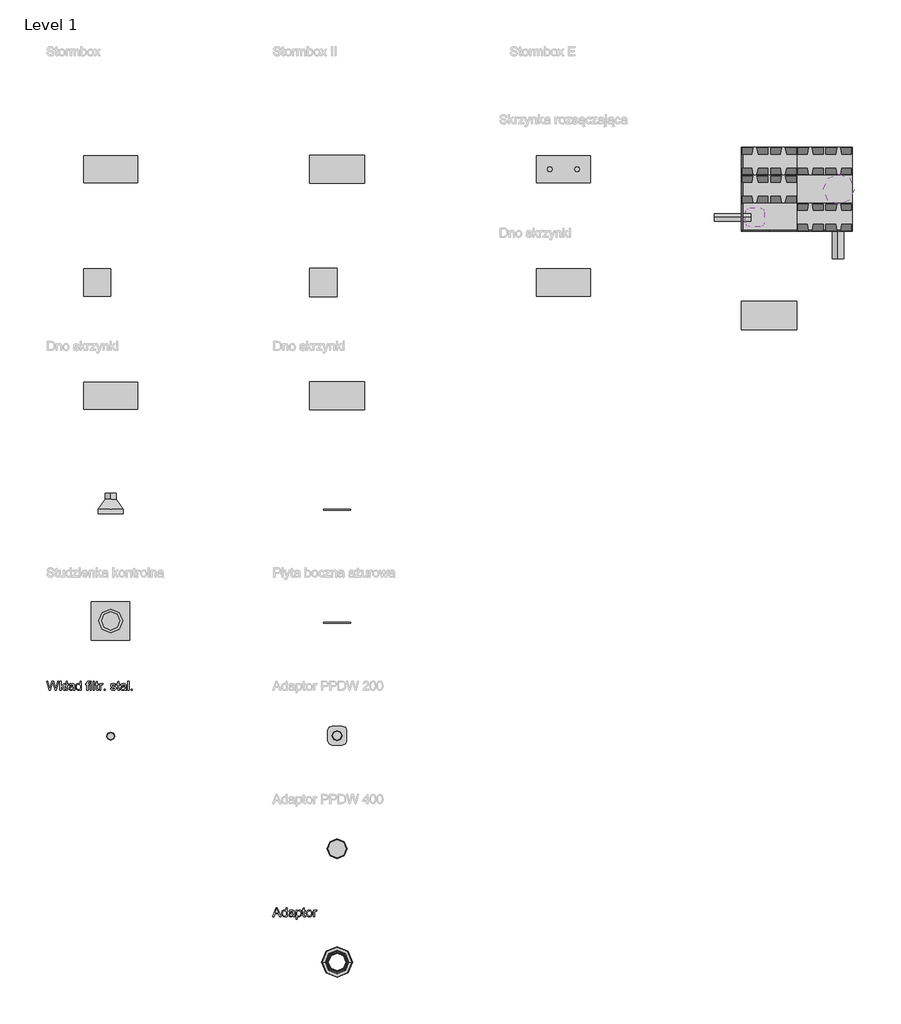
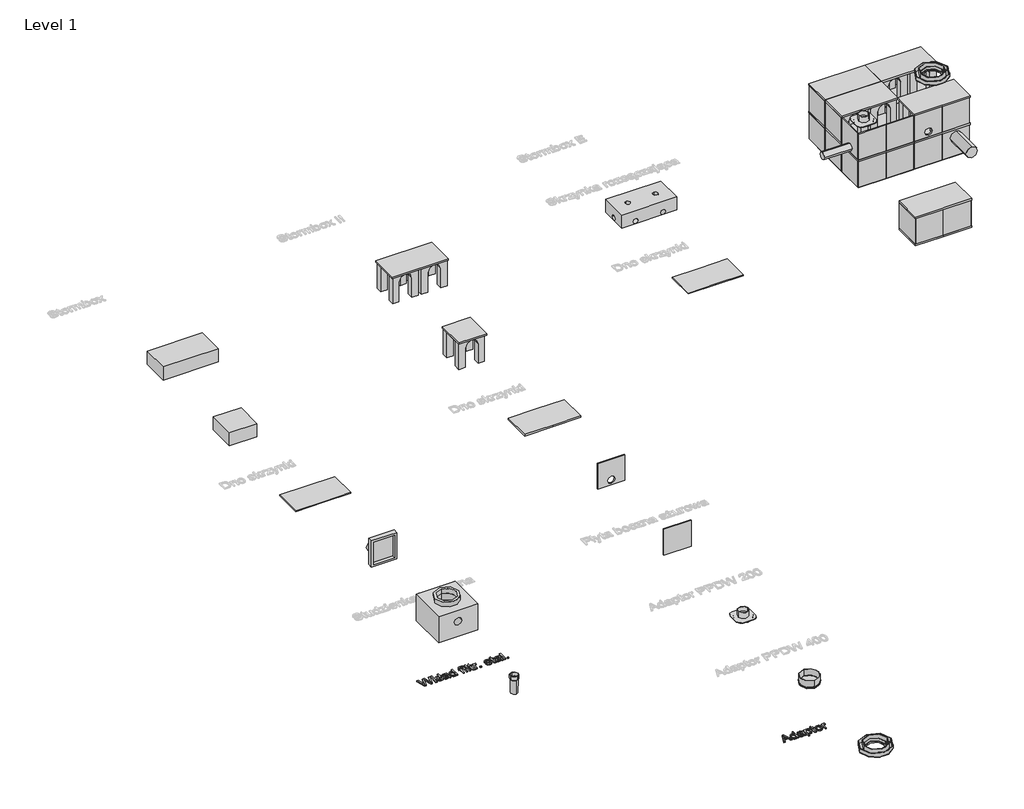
# One storey, part 1 of 5: 51 valves, 5 pipe fittings, 2 pipe segments, 2 proxies.
"""IFC4 building model written with IfcOpenShell, lengths in millimetres."""

from ifc_helpers import new_model, si_unit, point, frame, frame_2d, origin, origin_with_axes, place, context, project, spatial, polyline, circle_curve, trimmed, segment, composite_curve, outline, extrude, transform, mapped, element, save
from components import pipe_fitting_200_fb0a17d5, pipe_fitting_400_25bab9bb, pipe_fitting_400_9a6168bf, valve_804a3bdb, valve_efa6191e, valve_4bfdaffc, valve_0aeaebd4, valve_69fb7b47, valve_1afd6216, valve_ccfea8b2, valve_dc003401, valve_32763297, valve_e3340e43, valve_d310361c, valve_eda81de8, valve_7da77f28, valve_d295aecb, valve_250_92fb9a75

model = new_model("IFC4")

# Units and contexts
model_context = context("Model", 3, world=origin())
ifc_project = project(units=[si_unit("LENGTHUNIT", "METRE", prefix="MILLI")], contexts=[model_context])

# Site, building, storey
site = spatial("IfcSite", under=ifc_project)
building = spatial("IfcBuilding", under=site)
storey = spatial("IfcBuildingStorey", under=building, Name="Level 1", Elevation=0.0)

# Proxies
placement = place(None, origin())
element("IfcBuildingElementProxy", 1, Name="200mm Arial", ObjectType="200mm Arial", at=placement, inside=storey, context=model_context, shape_type="SweptSolid", body=[
    extrude(outline(polyline([(-12354.0896023, -16613.949573), (-12273.8913273, -16413.0369527), (-12252.5051207, -16413.0369527), (-12172.3068457, -16613.949573), (-12198.8434003, -16613.949573), (-12221.8482877, -16551.1643791), (-12304.5972112, -16551.1643791), (-12327.5530477, -16613.949573), (-12354.0896023, -16613.949573)]), holes=[polyline([(-12295.3756358, -16526.0503016), (-12231.0208121, -16526.0503016), (-12249.1206063, -16476.6560124), (-12263.198224, -16438.1510302), (-12275.7062118, -16472.3395303), (-12295.3756358, -16526.0503016)])]), origin_with_axes(), (0.0, 0.0, 1.0), 20.0),
    extrude(outline(polyline([(-12057.5767142, -16613.949573), (-12057.5767142, -16590.2579725), (-12065.0907039, -16601.9964738), (-12074.1927176, -16610.3811176), (-12084.8827552, -16615.4119039), (-12097.1608168, -16617.0888326), (-12113.3966756, -16614.6608115), (-12128.2591082, -16607.376748), (-12140.8406724, -16595.7455456), (-12150.233926, -16580.2761077), (-12156.0832497, -16561.5938337), (-12158.0330243, -16540.324123), (-12156.2365339, -16519.3180611), (-12150.8470627, -16500.3476128), (-12141.870742, -16484.4918989), (-12129.3137032, -16472.8300396), (-12114.1263082, -16465.6563407), (-12097.2589187, -16463.2651077), (-12084.9716601, -16464.975759), (-12074.1068785, -16470.1077128), (-12057.5767142, -16487.8886759), (-12057.5767142, -16413.0369527), (-12032.4626366, -16413.0369527), (-12032.4626366, -16613.949573), (-12057.5767142, -16613.949573)]), holes=[polyline([(-12132.9189468, -16540.2260211), (-12130.0862554, -16562.9427343), (-12121.5881813, -16579.0988853), (-12109.239609, -16588.7557877), (-12094.855423, -16591.9747551), (-12080.4773684, -16588.9029404), (-12068.4414957, -16579.6874965), (-12060.2929095, -16564.1567449), (-12057.5767142, -16542.1390075), (-12060.3419605, -16518.0672623), (-12068.6376995, -16501.3776824), (-12080.9801404, -16491.6288096), (-12095.8854926, -16488.3791853), (-12110.4168314, -16491.5000509), (-12122.3239453, -16500.8626476), (-12130.2701964, -16516.9452222), (-12132.9189468, -16540.2260211)])]), origin_with_axes(), (0.0, 0.0, 1.0), 20.0),
    extrude(outline(polyline([(-11900.6137295, -16595.1140148), (-11924.9675176, -16612.1346884), (-11951.8719542, -16617.0888326), (-11972.859622, -16614.1089885), (-11988.3413227, -16605.169456), (-11997.8878604, -16591.5946104), (-12001.0700397, -16574.7088268), (-11996.2630483, -16554.8431991), (-11983.6324331, -16540.4222249), (-11966.0476738, -16532.1816682), (-11944.3181106, -16528.4047463), (-11900.7608823, -16519.7717822), (-11900.6137295, -16514.1799759), (-11902.3427749, -16502.9718377), (-11907.5299111, -16495.6387233), (-11919.1304566, -16490.1940698), (-11935.292739, -16488.3791853), (-11950.2532734, -16489.5870645), (-11960.7011221, -16493.2107021), (-11967.8257701, -16499.9122858), (-11972.8167025, -16510.3540031), (-11997.93078, -16507.2147434), (-11987.0659984, -16482.6892771), (-11977.8076349, -16474.4364576), (-11965.1892824, -16468.3173538), (-11932.0553774, -16463.2651077), (-11901.6192737, -16467.7287426), (-11884.4269218, -16478.9368807), (-11876.7259253, -16495.9820798), (-11875.499652, -16517.9568977), (-11875.499652, -16549.2023418), (-11874.2243278, -16592.8331464), (-11869.2211326, -16613.949573), (-11894.3352102, -16613.949573), (-11900.6137295, -16595.1140148)]), holes=[polyline([(-11900.6137295, -16544.8858597), (-11941.1297999, -16552.5868562), (-11962.7367358, -16556.6580836), (-11972.5223969, -16563.2799595), (-11975.9559622, -16572.9429932), (-11974.0858953, -16580.4109977), (-11968.4756949, -16586.5301016), (-11959.2479882, -16590.6135917), (-11946.5254025, -16591.9747551), (-11933.0363961, -16590.4725703), (-11921.1170194, -16585.9660159), (-11904.7340079, -16571.4224143), (-11900.7608823, -16551.998245), (-11900.6137295, -16544.8858597)])]), origin_with_axes(), (0.0, 0.0, 1.0), 20.0),
    extrude(outline(polyline([(-11840.9677954, -16670.4562474), (-11840.9677954, -16466.4043674), (-11815.8537179, -16466.4043674), (-11815.8537179, -16491.0279356), (-11798.4896877, -16470.2058147), (-11787.7965844, -16465.0002845), (-11775.0433419, -16463.2651077), (-11758.0594564, -16465.6931289), (-11743.2092865, -16472.9771924), (-11731.1182316, -16484.6758398), (-11722.4116911, -16500.3476128), (-11717.1509785, -16518.8520772), (-11715.3974077, -16539.0487987), (-11717.3778391, -16560.5269759), (-11723.3191333, -16579.7365474), (-11733.031218, -16595.702626), (-11746.3240208, -16607.4503244), (-11761.8057214, -16614.6792056), (-11778.0844997, -16617.0888326), (-11789.629863, -16615.4762832), (-11799.9366902, -16610.638635), (-11815.8537179, -16594.3291999), (-11815.8537179, -16670.4562474), (-11840.9677954, -16670.4562474)]), holes=[polyline([(-11815.8537179, -16541.3541926), (-11813.1375225, -16563.8685707), (-11804.9889363, -16579.6139201), (-11792.9653264, -16588.8845463), (-11778.6240599, -16591.9747551), (-11764.0498016, -16588.7741818), (-11751.7196234, -16579.1724617), (-11743.3135198, -16562.8507638), (-11740.5114852, -16539.4902571), (-11743.2460747, -16517.0985064), (-11751.4498432, -16501.1324278), (-11763.455059, -16491.5674959), (-11777.5939904, -16488.3791853), (-11791.788104, -16491.769831), (-11804.2531723, -16501.9417682), (-11812.9535815, -16518.5761657), (-11815.8537179, -16541.3541926)])]), origin_with_axes(), (0.0, 0.0, 1.0), 20.0),
    extrude(outline(polyline([(-11633.7766557, -16593.0048247), (-11630.637396, -16614.6853369), (-11649.4239032, -16617.0888326), (-11670.4667534, -16612.9195034), (-11680.963653, -16601.9811454), (-11684.0048108, -16573.4825535), (-11684.0048108, -16491.518445), (-11702.8403689, -16491.518445), (-11702.8403689, -16466.4043674), (-11684.0048108, -16466.4043674), (-11684.0048108, -16430.5481356), (-11658.8907332, -16415.7838049), (-11658.8907332, -16466.4043674), (-11633.7766557, -16466.4043674), (-11633.7766557, -16491.518445), (-11658.8907332, -16491.518445), (-11658.8907332, -16572.7467895), (-11657.5663581, -16585.6962357), (-11653.2744015, -16590.2824979), (-11644.7150137, -16591.9747551), (-11633.7766557, -16593.0048247)])), origin_with_axes(), (0.0, 0.0, 1.0), 20.0),
    extrude(outline(polyline([(-11614.9410976, -16540.1769702), (-11609.5087068, -16504.6027813), (-11602.7182183, -16490.7796153), (-11593.2115344, -16479.5990683), (-11573.0761265, -16467.3485979), (-11548.9675931, -16463.2651077), (-11522.5843227, -16468.237646), (-11501.5108157, -16483.1552609), (-11487.6968468, -16506.8407301), (-11483.0921905, -16538.116831), (-11485.1278042, -16563.4884259), (-11491.2346453, -16582.8022307), (-11501.2349042, -16597.2661245), (-11514.9507713, -16608.0879865), (-11531.2418123, -16614.8386211), (-11548.9675931, -16617.0888326), (-11575.6696946, -16612.1346884), (-11596.7186761, -16597.2722558), (-11610.3854922, -16573.090146), (-11614.9410976, -16540.1769702)]), holes=[polyline([(-11589.82702, -16540.1279193), (-11586.9207523, -16562.8568952), (-11578.201949, -16579.0498343), (-11565.0808245, -16588.7435249), (-11548.9675931, -16591.9747551), (-11532.9279381, -16588.7251308), (-11519.8313391, -16578.9762579), (-11511.1125358, -16562.568721), (-11508.206268, -16539.3431043), (-11511.1309299, -16517.276316), (-11519.9049155, -16501.304106), (-11533.0199086, -16491.6104155), (-11548.9675931, -16488.3791853), (-11565.0808245, -16491.5981527), (-11578.201949, -16501.2550551), (-11586.9207523, -16517.4112061), (-11589.82702, -16540.1279193)])]), origin_with_axes(), (0.0, 0.0, 1.0), 20.0),
    extrude(outline(polyline([(-11454.8388533, -16613.949573), (-11454.8388533, -16466.4043674), (-11432.8640354, -16466.4043674), (-11432.8640354, -16488.2320325), (-11417.2658388, -16468.1211501), (-11401.5695404, -16463.2651077), (-11389.0615525, -16465.2026196), (-11376.3573609, -16471.0151551), (-11384.7450704, -16493.5295332), (-11402.4034062, -16488.3791853), (-11416.6036512, -16493.3333295), (-11425.6535483, -16507.0675906), (-11429.7247757, -16536.4000484), (-11429.7247757, -16613.949573), (-11454.8388533, -16613.949573)])), origin_with_axes(), (0.0, 0.0, 1.0), 20.0),
])
element("IfcBuildingElementProxy", 2, Name="200mm Arial", ObjectType="200mm Arial", at=placement, inside=storey, context=model_context, shape_type="SweptSolid", body=[
    extrude(outline(polyline([(-17294.7379737, -11613.949573), (-17349.5278655, -11413.0369527), (-17323.6289731, -11413.0369527), (-17291.8439687, -11545.0820635), (-17282.0337821, -11585.8433885), (-17271.5368825, -11549.790953), (-17231.7075252, -11413.0369527), (-17194.3797654, -11413.0369527), (-17165.4397151, -11512.1688876), (-17143.9063557, -11585.8433885), (-17134.3904747, -11546.2592858), (-17102.3111648, -11413.0369527), (-17076.4122723, -11413.0369527), (-17131.2512151, -11613.949573), (-17158.0820752, -11613.949573), (-17206.2500911, -11458.9486257), (-17212.9700689, -11437.3171643), (-17220.5239125, -11463.3632096), (-17264.4244973, -11613.949573), (-17294.7379737, -11613.949573)])), origin_with_axes(), (0.0, 0.0, 1.0), 20.0),
    extrude(outline(polyline([(-17054.4374545, -11613.949573), (-17054.4374545, -11413.0369527), (-17029.3233769, -11413.0369527), (-17029.3233769, -11520.9980555), (-16973.0129062, -11466.4043674), (-16938.2848458, -11466.4043674), (-16995.2820296, -11521.6847686), (-16935.1455862, -11613.949573), (-16964.4780439, -11613.949573), (-17013.2837219, -11539.1469006), (-17029.3233769, -11554.6960463), (-17029.3233769, -11613.949573), (-17054.4374545, -11613.949573)])), origin_with_axes(), (0.0, 0.0, 1.0), 20.0),
    extrude(outline(polyline([(-16913.1707683, -11534.5361129), (-16932.0063265, -11549.5947493), (-16932.0063265, -11521.341412), (-16913.1707683, -11506.2827757), (-16913.1707683, -11413.0369527), (-16888.0566908, -11413.0369527), (-16888.0566908, -11486.1718933), (-16869.2211326, -11471.113257), (-16869.2211326, -11499.3665942), (-16888.0566908, -11514.4252305), (-16888.0566908, -11613.949573), (-16913.1707683, -11613.949573), (-16913.1707683, -11534.5361129)])), origin_with_axes(), (0.0, 0.0, 1.0), 20.0),
    extrude(outline(polyline([(-16756.2077837, -11595.1140148), (-16780.5615718, -11612.1346884), (-16807.4660084, -11617.0888326), (-16828.4536762, -11614.1089885), (-16843.9353768, -11605.169456), (-16853.4819146, -11591.5946104), (-16856.6640939, -11574.7088268), (-16851.8571024, -11554.8431991), (-16839.2264873, -11540.4222249), (-16821.6417279, -11532.1816682), (-16799.9121647, -11528.4047463), (-16756.3549365, -11519.7717822), (-16756.2077837, -11514.1799759), (-16757.9368291, -11502.9718377), (-16763.1239652, -11495.6387233), (-16774.7245108, -11490.1940698), (-16790.8867931, -11488.3791853), (-16805.8473276, -11489.5870645), (-16816.2951762, -11493.2107021), (-16823.4198242, -11499.9122858), (-16828.4107566, -11510.3540031), (-16853.5248342, -11507.2147434), (-16842.6600526, -11482.6892771), (-16833.401689, -11474.4364576), (-16820.7833366, -11468.3173538), (-16787.6494316, -11463.2651077), (-16757.2133278, -11467.7287426), (-16740.0209759, -11478.9368807), (-16732.3199795, -11495.9820798), (-16731.0937062, -11517.9568977), (-16731.0937062, -11549.2023418), (-16729.8183819, -11592.8331464), (-16724.8151868, -11613.949573), (-16749.9292643, -11613.949573), (-16756.2077837, -11595.1140148)]), holes=[polyline([(-16756.2077837, -11544.8858597), (-16796.7238541, -11552.5868562), (-16818.33079, -11556.6580836), (-16828.116451, -11563.2799595), (-16831.5500163, -11572.9429932), (-16829.6799495, -11580.4109977), (-16824.0697491, -11586.5301016), (-16814.8420424, -11590.6135917), (-16802.1194567, -11591.9747551), (-16788.6304502, -11590.4725703), (-16776.7110736, -11585.9660159), (-16760.328062, -11571.4224143), (-16756.3549365, -11551.998245), (-16756.2077837, -11544.8858597)])]), origin_with_axes(), (0.0, 0.0, 1.0), 20.0),
    extrude(outline(polyline([(-16605.5233185, -11613.949573), (-16605.5233185, -11590.2579725), (-16613.0373082, -11601.9964738), (-16622.1393219, -11610.3811176), (-16632.8293596, -11615.4119039), (-16645.1074212, -11617.0888326), (-16661.3432799, -11614.6608115), (-16676.2057125, -11607.376748), (-16688.7872767, -11595.7455456), (-16698.1805303, -11580.2761077), (-16704.0298541, -11561.5938337), (-16705.9796286, -11540.324123), (-16704.1831382, -11519.3180611), (-16698.793667, -11500.3476128), (-16689.8173463, -11484.4918989), (-16677.2603075, -11472.8300396), (-16662.0729125, -11465.6563407), (-16645.205523, -11463.2651077), (-16632.9182644, -11464.975759), (-16622.0534828, -11470.1077128), (-16605.5233185, -11487.8886759), (-16605.5233185, -11413.0369527), (-16580.4092409, -11413.0369527), (-16580.4092409, -11613.949573), (-16605.5233185, -11613.949573)]), holes=[polyline([(-16680.8655511, -11540.2260211), (-16678.0328597, -11562.9427343), (-16669.5347856, -11579.0988853), (-16657.1862133, -11588.7557877), (-16642.8020273, -11591.9747551), (-16628.4239727, -11588.9029404), (-16616.3881001, -11579.6874965), (-16608.2395139, -11564.1567449), (-16605.5233185, -11542.1390075), (-16608.2885648, -11518.0672623), (-16616.5843038, -11501.3776824), (-16628.9267447, -11491.6288096), (-16643.8320969, -11488.3791853), (-16658.3634357, -11491.5000509), (-16670.2705496, -11500.8626476), (-16678.2168007, -11516.9452222), (-16680.8655511, -11540.2260211)])]), origin_with_axes(), (0.0, 0.0, 1.0), 20.0),
    extrude(outline(polyline([(-16457.9781129, -11613.949573), (-16457.9781129, -11491.518445), (-16479.9529308, -11491.518445), (-16479.9529308, -11466.4043674), (-16457.9781129, -11466.4043674), (-16457.9781129, -11451.5419348), (-16455.3293626, -11430.5971866), (-16450.2771165, -11422.2462653), (-16442.4780182, -11415.6366521), (-16431.5641857, -11411.3324327), (-16417.1677369, -11409.897693), (-16394.2609514, -11412.6445452), (-16397.9397713, -11436.1889929), (-16412.4097965, -11435.0117705), (-16428.2287223, -11439.1810998), (-16431.7052071, -11445.1530508), (-16432.8640354, -11454.7302454), (-16432.8640354, -11466.4043674), (-16404.6106982, -11466.4043674), (-16404.6106982, -11491.518445), (-16432.8640354, -11491.518445), (-16432.8640354, -11613.949573), (-16457.9781129, -11613.949573)])), origin_with_axes(), (0.0, 0.0, 1.0), 20.0),
    extrude(outline(polyline([(-16382.6358803, -11438.1510302), (-16382.6358803, -11413.0369527), (-16357.5218028, -11413.0369527), (-16357.5218028, -11438.1510302), (-16382.6358803, -11438.1510302)])), origin_with_axes(), (0.0, 0.0, 1.0), 20.0),
    extrude(outline(polyline([(-16382.6358803, -11613.949573), (-16382.6358803, -11466.4043674), (-16357.5218028, -11466.4043674), (-16357.5218028, -11613.949573), (-16382.6358803, -11613.949573)])), origin_with_axes(), (0.0, 0.0, 1.0), 20.0),
    extrude(outline(polyline([(-16319.8506865, -11613.949573), (-16319.8506865, -11413.0369527), (-16294.736609, -11413.0369527), (-16294.736609, -11613.949573), (-16319.8506865, -11613.949573)])), origin_with_axes(), (0.0, 0.0, 1.0), 20.0),
    extrude(outline(polyline([(-16203.6980779, -11593.0048247), (-16200.5588182, -11614.6853369), (-16219.3453254, -11617.0888326), (-16240.3881755, -11612.9195034), (-16250.8850751, -11601.9811454), (-16253.926233, -11573.4825535), (-16253.926233, -11491.518445), (-16272.7617911, -11491.518445), (-16272.7617911, -11466.4043674), (-16253.926233, -11466.4043674), (-16253.926233, -11430.5481356), (-16228.8121554, -11415.7838049), (-16228.8121554, -11466.4043674), (-16203.6980779, -11466.4043674), (-16203.6980779, -11491.518445), (-16228.8121554, -11491.518445), (-16228.8121554, -11572.7467895), (-16227.4877802, -11585.6962357), (-16223.1958236, -11590.2824979), (-16214.6364359, -11591.9747551), (-16203.6980779, -11593.0048247)])), origin_with_axes(), (0.0, 0.0, 1.0), 20.0),
    extrude(outline(polyline([(-16178.5840003, -11613.949573), (-16178.5840003, -11466.4043674), (-16156.6091825, -11466.4043674), (-16156.6091825, -11488.2320325), (-16141.0109859, -11468.1211501), (-16125.3146874, -11463.2651077), (-16112.8066996, -11465.2026196), (-16100.102508, -11471.0151551), (-16108.4902175, -11493.5295332), (-16126.1485533, -11488.3791853), (-16140.3487983, -11493.3333295), (-16149.3986954, -11507.0675906), (-16153.4699228, -11536.4000484), (-16153.4699228, -11613.949573), (-16178.5840003, -11613.949573)])), origin_with_axes(), (0.0, 0.0, 1.0), 20.0),
    extrude(outline(polyline([(-16078.1276902, -11613.949573), (-16078.1276902, -11588.8354954), (-16053.0136127, -11588.8354954), (-16053.0136127, -11613.949573), (-16078.1276902, -11613.949573)])), origin_with_axes(), (0.0, 0.0, 1.0), 20.0),
    extrude(outline(polyline([(-15936.861004, -11569.9999373), (-15911.7469265, -11566.8606776), (-15907.7860637, -11577.6028318), (-15900.1218555, -11585.500032), (-15888.7052509, -11590.3560743), (-15873.487199, -11591.9747551), (-15858.4530881, -11590.4909644), (-15847.8826121, -11586.0395923), (-15841.6286182, -11579.5893946), (-15839.5439536, -11572.1091274), (-15841.640881, -11565.7079807), (-15847.9316631, -11560.8274129), (-15873.7815046, -11553.6659767), (-15911.5997737, -11541.378718), (-15921.170837, -11535.2044319), (-15928.1054126, -11527.0313202), (-15933.7217444, -11506.773285), (-15929.2090585, -11488.0603542), (-15916.8972744, -11473.7620073), (-15900.9311958, -11466.330791), (-15879.32426, -11463.2651077), (-15848.7655289, -11468.1947265), (-15837.3366616, -11473.9949993), (-15829.3413596, -11481.5365802), (-15820.7083954, -11504.0754837), (-15845.822473, -11507.2147434), (-15848.9923895, -11499.3114119), (-15855.2647775, -11493.3578549), (-15877.3622227, -11488.3791853), (-15891.7831969, -11489.5686704), (-15901.3971797, -11493.1371257), (-15906.805045, -11498.2874737), (-15908.6076668, -11504.2226365), (-15905.6155599, -11511.5312255), (-15896.2468318, -11517.0739809), (-15874.6153705, -11522.4205326), (-15837.7535945, -11534.2418073), (-15820.634819, -11547.632712), (-15815.9811118, -11557.4796867), (-15814.4298761, -11569.460377), (-15816.2508919, -11581.8457375), (-15821.7139396, -11593.495334), (-15830.6105525, -11603.4955929), (-15842.7322642, -11610.9329406), (-15857.3739676, -11615.5498596), (-15873.8305555, -11617.0888326), (-15899.1530995, -11614.1212512), (-15917.6330384, -11605.2185069), (-15929.969348, -11590.4787017), (-15936.861004, -11569.9999373)])), origin_with_axes(), (0.0, 0.0, 1.0), 20.0),
    extrude(outline(polyline([(-15732.8091241, -11593.0048247), (-15729.6698644, -11614.6853369), (-15748.4563716, -11617.0888326), (-15769.4992217, -11612.9195034), (-15779.9961213, -11601.9811454), (-15783.0372791, -11573.4825535), (-15783.0372791, -11491.518445), (-15801.8728373, -11491.518445), (-15801.8728373, -11466.4043674), (-15783.0372791, -11466.4043674), (-15783.0372791, -11430.5481356), (-15757.9232016, -11415.7838049), (-15757.9232016, -11466.4043674), (-15732.8091241, -11466.4043674), (-15732.8091241, -11491.518445), (-15757.9232016, -11491.518445), (-15757.9232016, -11572.7467895), (-15756.5988264, -11585.6962357), (-15752.3068698, -11590.2824979), (-15743.747482, -11591.9747551), (-15732.8091241, -11593.0048247)])), origin_with_axes(), (0.0, 0.0, 1.0), 20.0),
    extrude(outline(polyline([(-15613.5172558, -11595.1140148), (-15637.8710438, -11612.1346884), (-15664.7754804, -11617.0888326), (-15685.7631482, -11614.1089885), (-15701.2448489, -11605.169456), (-15710.7913866, -11591.5946104), (-15713.9735659, -11574.7088268), (-15709.1665745, -11554.8431991), (-15696.5359593, -11540.4222249), (-15678.9512, -11532.1816682), (-15657.2216368, -11528.4047463), (-15613.6644085, -11519.7717822), (-15613.5172558, -11514.1799759), (-15615.2463011, -11502.9718377), (-15620.4334373, -11495.6387233), (-15632.0339828, -11490.1940698), (-15648.1962652, -11488.3791853), (-15663.1567996, -11489.5870645), (-15673.6046483, -11493.2107021), (-15680.7292963, -11499.9122858), (-15685.7202287, -11510.3540031), (-15710.8343062, -11507.2147434), (-15699.9695246, -11482.6892771), (-15690.7111611, -11474.4364576), (-15678.0928086, -11468.3173538), (-15644.9589036, -11463.2651077), (-15614.5227999, -11467.7287426), (-15597.330448, -11478.9368807), (-15589.6294515, -11495.9820798), (-15588.4031782, -11517.9568977), (-15588.4031782, -11549.2023418), (-15587.127854, -11592.8331464), (-15582.1246588, -11613.949573), (-15607.2387364, -11613.949573), (-15613.5172558, -11595.1140148)]), holes=[polyline([(-15613.5172558, -11544.8858597), (-15654.0333262, -11552.5868562), (-15675.640262, -11556.6580836), (-15685.4259231, -11563.2799595), (-15688.8594884, -11572.9429932), (-15686.9894216, -11580.4109977), (-15681.3792211, -11586.5301016), (-15672.1515144, -11590.6135917), (-15659.4289287, -11591.9747551), (-15645.9399223, -11590.4725703), (-15634.0205456, -11585.9660159), (-15617.6375341, -11571.4224143), (-15613.6644085, -11551.998245), (-15613.5172558, -11544.8858597)])]), origin_with_axes(), (0.0, 0.0, 1.0), 20.0),
    extrude(outline(polyline([(-15553.8713216, -11613.949573), (-15553.8713216, -11413.0369527), (-15528.7572441, -11413.0369527), (-15528.7572441, -11613.949573), (-15553.8713216, -11613.949573)])), origin_with_axes(), (0.0, 0.0, 1.0), 20.0),
    extrude(outline(polyline([(-15484.8076084, -11613.949573), (-15484.8076084, -11588.8354954), (-15459.6935308, -11588.8354954), (-15459.6935308, -11613.949573), (-15484.8076084, -11613.949573)])), origin_with_axes(), (0.0, 0.0, 1.0), 20.0),
])

# Pipe fittings
pipe_fitting_200_shape = pipe_fitting_200_fb0a17d5(model_context)
element("IfcPipeFitting", 3, ObjectType="Pipelife - Stormbox II - Adaptor PPDW 200 : 200", at=placement, inside=storey, context=model_context, shape_type="MappedRepresentation", body=[
    mapped(pipe_fitting_200_shape, transform((-10932.6671252, -12613.949573, 0.0), x_axis=(1.0, 0.0, 0.0), y_axis=(0.0, 1.0, 0.0), z_axis=(0.0, 0.0, 1.0))),
])
element("IfcPipeFitting", 4, ObjectType="Pipelife - Stormbox II - Adaptor PPDW 200 : 200", at=placement, inside=storey, context=model_context, shape_type="MappedRepresentation", body=[
    mapped(pipe_fitting_200_shape, transform((-1702.9246802, -1176.7313655, 1264.0), x_axis=(1.0, 0.0, 0.0), y_axis=(0.0, 1.0, 0.0), z_axis=(0.0, 0.0, 1.0))),
])
pipe_fitting_400_shape = pipe_fitting_400_25bab9bb(model_context)
element("IfcPipeFitting", 5, ObjectType="Pipelife - Stormbox II - Adaptor PPDW 400 : 400", at=placement, inside=storey, context=model_context, shape_type="MappedRepresentation", body=[
    mapped(pipe_fitting_400_shape, transform((-10932.6671252, -15113.949573, 0.0), x_axis=(1.0, 0.0, 0.0), y_axis=(0.0, 1.0, 0.0), z_axis=(0.0, 0.0, 1.0))),
])
pipe_fitting_400_2_shape = pipe_fitting_400_9a6168bf(model_context)
element("IfcPipeFitting", 6, ObjectType="Pipelife - Stormbox II - Adaptor : 400", at=placement, inside=storey, context=model_context, shape_type="MappedRepresentation", body=[
    mapped(pipe_fitting_400_2_shape, transform((-10932.6671252, -17613.949573, 0.0), x_axis=(1.0, 0.0, 0.0), y_axis=(0.0, 1.0, 0.0), z_axis=(0.0, 0.0, 1.0))),
])
element("IfcPipeFitting", 7, ObjectType="Pipelife - Stormbox II - Adaptor : 400", at=placement, inside=storey, context=model_context, shape_type="MappedRepresentation", body=[
    mapped(pipe_fitting_400_2_shape, transform((148.0753198, -555.7313655, 1264.0), x_axis=(1.0, 0.0, 0.0), y_axis=(0.0, 1.0, 0.0), z_axis=(0.0, 0.0, 1.0))),
])

# Pipe segments
element("IfcPipeSegment", 8, ObjectType="Default", at=placement, inside=storey, context=model_context, shape_type="SweptSolid", body=[
    extrude(outline(composite_curve([segment(trimmed(circle_curve(frame_2d((430.0, 130.5753198)), 125.0), [point((430.0, 5.5753198))], [point((305.0, 130.5753198))], False, "CARTESIAN"), True, "CONTINUOUS"), segment(trimmed(circle_curve(frame_2d((430.0, 130.5753198)), 125.0), [point((305.0, 130.5753198))], [point((430.0, 255.5753198))], False, "CARTESIAN"), True, "CONTINUOUS"), segment(trimmed(circle_curve(frame_2d((430.0, 130.5753198)), 125.0), [point((430.0, 255.5753198))], [point((555.0, 130.5753198))], False, "CARTESIAN"), True, "CONTINUOUS"), segment(trimmed(circle_curve(frame_2d((430.0, 130.5753198)), 125.0), [point((555.0, 130.5753198))], [point((430.0, 5.5753198))], False, "CARTESIAN"), True, "CONTINUOUS")], self_intersect=False)), frame((0.0, -2087.2313655, 0.0), z_axis=(0.0, 1.0, 0.0), x_axis=(0.0, 0.0, 1.0)), (0.0, 0.0, 1.0), 800.0),
])
element("IfcPipeSegment", 9, ObjectType="Default", at=placement, inside=storey, context=model_context, shape_type="SweptSolid", body=[
    extrude(outline(composite_curve([segment(trimmed(circle_curve(frame_2d((-1176.7313655, 752.0)), 80.0), [point((-1096.7313655, 752.0))], [point((-1176.7313655, 672.0))], False, "CARTESIAN"), True, "CONTINUOUS"), segment(trimmed(circle_curve(frame_2d((-1176.7313655, 752.0)), 80.0), [point((-1176.7313655, 672.0))], [point((-1256.7313655, 752.0))], False, "CARTESIAN"), True, "CONTINUOUS"), segment(trimmed(circle_curve(frame_2d((-1176.7313655, 752.0)), 80.0), [point((-1256.7313655, 752.0))], [point((-1176.7313655, 832.0))], False, "CARTESIAN"), True, "CONTINUOUS"), segment(trimmed(circle_curve(frame_2d((-1176.7313655, 752.0)), 80.0), [point((-1176.7313655, 832.0))], [point((-1096.7313655, 752.0))], False, "CARTESIAN"), True, "CONTINUOUS")], self_intersect=False)), frame((-2599.4246802, 0.0, 0.0), z_axis=(1.0, 0.0, 0.0), x_axis=(0.0, 1.0, 0.0)), (0.0, 0.0, 1.0), 800.0),
])

# Valves
valve_shape = valve_804a3bdb(model_context)
element("IfcValve", 10, ObjectType="Pipelife - Stormbox - Dno skrzynki : Dno skrzynki", at=placement, inside=storey, context=model_context, shape_type="MappedRepresentation", body=[
    mapped(valve_shape, transform((-1388.4246802, -1176.7313655, -19.7), x_axis=(1.0, 0.0, 0.0), y_axis=(0.0, 1.0, 0.0), z_axis=(0.0, 0.0, 1.0))),
])
element("IfcValve", 11, ObjectType="Pipelife - Stormbox - Dno skrzynki : Dno skrzynki", at=placement, inside=storey, context=model_context, shape_type="MappedRepresentation", body=[
    mapped(valve_shape, transform((-1388.4246802, -555.7313655, -19.7), x_axis=(1.0, 0.0, 0.0), y_axis=(0.0, 1.0, 0.0), z_axis=(0.0, 0.0, 1.0))),
])
element("IfcValve", 12, ObjectType="Pipelife - Stormbox - Dno skrzynki : Dno skrzynki", at=placement, inside=storey, context=model_context, shape_type="MappedRepresentation", body=[
    mapped(valve_shape, transform((-1388.4246802, 65.2686345, -19.7), x_axis=(1.0, 0.0, 0.0), y_axis=(0.0, 1.0, 0.0), z_axis=(0.0, 0.0, 1.0))),
])
element("IfcValve", 13, ObjectType="Pipelife - Stormbox - Dno skrzynki : Dno skrzynki", at=placement, inside=storey, context=model_context, shape_type="MappedRepresentation", body=[
    mapped(valve_shape, transform((-166.4246802, -1176.7313655, -19.7), x_axis=(1.0, 0.0, 0.0), y_axis=(0.0, 1.0, 0.0), z_axis=(0.0, 0.0, 1.0))),
])
element("IfcValve", 14, ObjectType="Pipelife - Stormbox - Dno skrzynki : Dno skrzynki", at=placement, inside=storey, context=model_context, shape_type="MappedRepresentation", body=[
    mapped(valve_shape, transform((-166.4246802, -555.7313655, -19.7), x_axis=(1.0, 0.0, 0.0), y_axis=(0.0, 1.0, 0.0), z_axis=(0.0, 0.0, 1.0))),
])
element("IfcValve", 15, ObjectType="Pipelife - Stormbox - Dno skrzynki : Dno skrzynki", at=placement, inside=storey, context=model_context, shape_type="MappedRepresentation", body=[
    mapped(valve_shape, transform((-166.4246802, 65.2686345, -19.7), x_axis=(1.0, 0.0, 0.0), y_axis=(0.0, 1.0, 0.0), z_axis=(0.0, 0.0, 1.0))),
])
element("IfcValve", 16, ObjectType="Pipelife - Stormbox - Dno skrzynki : Dno skrzynki", at=placement, inside=storey, context=model_context, shape_type="MappedRepresentation", body=[
    mapped(valve_shape, transform((-15932.6671252, -5113.949573, 0.0), x_axis=(1.0, 0.0, 0.0), y_axis=(0.0, 1.0, 0.0), z_axis=(0.0, 0.0, 1.0))),
])
valve_2_shape = valve_efa6191e(model_context)
element("IfcValve", 17, ObjectType="Pipelife - Stormbox - Studzienka kontrolna : 160-200-250-315", at=placement, inside=storey, context=model_context, shape_type="MappedRepresentation", body=[
    mapped(valve_2_shape, transform((-15932.6671252, -10084.0282356, 0.0), x_axis=(1.0, 0.0, 0.0), y_axis=(0.0, 1.0, 0.0), z_axis=(0.0, 0.0, 1.0))),
])
valve_3_shape = valve_4bfdaffc(model_context)
element("IfcValve", 18, ObjectType="Pipelife - Stormbox - Wkład filtr. stal. : 160 dł. 300 mm", at=placement, inside=storey, context=model_context, shape_type="MappedRepresentation", body=[
    mapped(valve_3_shape, transform((-15932.6671252, -12626.449573, 0.0), x_axis=(1.0, 0.0, 0.0), y_axis=(0.0, 1.0, 0.0), z_axis=(0.0, 0.0, 1.0))),
])
valve_4_shape = valve_0aeaebd4(model_context)
element("IfcValve", 19, ObjectType="Pipelife - Stormbox II - Dno skrzynki : Dno skrzynki", at=placement, inside=storey, context=model_context, shape_type="MappedRepresentation", body=[
    mapped(valve_4_shape, transform((-10932.6671252, -5113.949573, 0.0), x_axis=(1.0, 0.0, 0.0), y_axis=(0.0, 1.0, 0.0), z_axis=(0.0, 0.0, 1.0))),
])
element("IfcValve", 20, ObjectType="Pipelife - Stormbox II - Dno skrzynki : Dno skrzynki", at=placement, inside=storey, context=model_context, shape_type="MappedRepresentation", body=[
    mapped(valve_4_shape, transform((-1388.4246802, -3341.14986, -36.0), x_axis=(1.0, 0.0, 0.0), y_axis=(0.0, 1.0, 0.0), z_axis=(0.0, 0.0, 1.0))),
])
valve_5_shape = valve_69fb7b47(model_context)
element("IfcValve", 21, ObjectType="Pipelife - Stormbox II - Płyta boczna ażurowa : Płyta boczna ażurowa", at=placement, inside=storey, context=model_context, shape_type="MappedRepresentation", body=[
    mapped(valve_5_shape, transform((-10932.6671252, -10113.949573, 297.5), x_axis=(1.0, 0.0, 0.0), y_axis=(0.0, 1.0, 0.0), z_axis=(0.0, 0.0, 1.0))),
])
element("IfcValve", 22, ObjectType="Pipelife - Stormbox II - Płyta boczna ażurowa : Płyta boczna ażurowa", at=placement, inside=storey, context=model_context, shape_type="MappedRepresentation", body=[
    mapped(valve_5_shape, transform((-1685.4246802, -1462.2313655, 297.5), x_axis=(1.0, 0.0, 0.0), y_axis=(0.0, 1.0, 0.0), z_axis=(0.0, 0.0, 1.0))),
])
element("IfcValve", 23, ObjectType="Pipelife - Stormbox II - Płyta boczna ażurowa : Płyta boczna ażurowa", at=placement, inside=storey, context=model_context, shape_type="MappedRepresentation", body=[
    mapped(valve_5_shape, transform((-1685.4246802, -1462.2313655, 929.5), x_axis=(1.0, 0.0, 0.0), y_axis=(0.0, 1.0, 0.0), z_axis=(0.0, 0.0, 1.0))),
])
element("IfcValve", 24, ObjectType="Pipelife - Stormbox II - Płyta boczna ażurowa : Płyta boczna ażurowa", at=placement, inside=storey, context=model_context, shape_type="MappedRepresentation", body=[
    mapped(valve_5_shape, transform((-1091.4246802, -1462.2313655, 297.5), x_axis=(1.0, 0.0, 0.0), y_axis=(0.0, 1.0, 0.0), z_axis=(0.0, 0.0, 1.0))),
])
element("IfcValve", 25, ObjectType="Pipelife - Stormbox II - Płyta boczna ażurowa : Płyta boczna ażurowa", at=placement, inside=storey, context=model_context, shape_type="MappedRepresentation", body=[
    mapped(valve_5_shape, transform((-1091.4246802, -1462.2313655, 929.5), x_axis=(1.0, 0.0, 0.0), y_axis=(0.0, 1.0, 0.0), z_axis=(0.0, 0.0, 1.0))),
])
element("IfcValve", 26, ObjectType="Pipelife - Stormbox II - Płyta boczna ażurowa : Płyta boczna ażurowa", at=placement, inside=storey, context=model_context, shape_type="MappedRepresentation", body=[
    mapped(valve_5_shape, transform((-463.4246802, -1462.2313655, 297.5), x_axis=(1.0, 0.0, 0.0), y_axis=(0.0, 1.0, 0.0), z_axis=(0.0, 0.0, 1.0))),
])
element("IfcValve", 27, ObjectType="Pipelife - Stormbox II - Płyta boczna ażurowa : Płyta boczna ażurowa", at=placement, inside=storey, context=model_context, shape_type="MappedRepresentation", body=[
    mapped(valve_5_shape, transform((130.5753198, -1462.2313655, 929.5), x_axis=(1.0, 0.0, 0.0), y_axis=(0.0, 1.0, 0.0), z_axis=(0.0, 0.0, 1.0))),
])
element("IfcValve", 28, ObjectType="Pipelife - Stormbox II - Płyta boczna ażurowa : Płyta boczna ażurowa", at=placement, inside=storey, context=model_context, shape_type="MappedRepresentation", body=[
    mapped(valve_5_shape, transform((-1974.4246802, -1176.7313655, 297.5), x_axis=(0.0, -1.0, 0.0), y_axis=(1.0, 0.0, 0.0), z_axis=(0.0, 0.0, 1.0))),
])
element("IfcValve", 29, ObjectType="Pipelife - Stormbox II - Płyta boczna ażurowa : Płyta boczna ażurowa", at=placement, inside=storey, context=model_context, shape_type="MappedRepresentation", body=[
    mapped(valve_5_shape, transform((-1974.4246802, -555.7313655, 297.5), x_axis=(0.0, -1.0, 0.0), y_axis=(1.0, 0.0, 0.0), z_axis=(0.0, 0.0, 1.0))),
])
element("IfcValve", 30, ObjectType="Pipelife - Stormbox II - Płyta boczna ażurowa : Płyta boczna ażurowa", at=placement, inside=storey, context=model_context, shape_type="MappedRepresentation", body=[
    mapped(valve_5_shape, transform((-1974.4246802, -555.7313655, 929.5), x_axis=(0.0, -1.0, 0.0), y_axis=(1.0, 0.0, 0.0), z_axis=(0.0, 0.0, 1.0))),
])
element("IfcValve", 31, ObjectType="Pipelife - Stormbox II - Płyta boczna ażurowa : Płyta boczna ażurowa", at=placement, inside=storey, context=model_context, shape_type="MappedRepresentation", body=[
    mapped(valve_5_shape, transform((-1974.4246802, 65.2686345, 297.5), x_axis=(0.0, -1.0, 0.0), y_axis=(1.0, 0.0, 0.0), z_axis=(0.0, 0.0, 1.0))),
])
element("IfcValve", 32, ObjectType="Pipelife - Stormbox II - Płyta boczna ażurowa : Płyta boczna ażurowa", at=placement, inside=storey, context=model_context, shape_type="MappedRepresentation", body=[
    mapped(valve_5_shape, transform((-1974.4246802, 65.2686345, 929.5), x_axis=(0.0, -1.0, 0.0), y_axis=(1.0, 0.0, 0.0), z_axis=(0.0, 0.0, 1.0))),
])
element("IfcValve", 33, ObjectType="Pipelife - Stormbox II - Płyta boczna ażurowa : Płyta boczna ażurowa", at=placement, inside=storey, context=model_context, shape_type="MappedRepresentation", body=[
    mapped(valve_5_shape, transform((-1091.4246802, -3626.64986, 297.5), x_axis=(1.0, 0.0, 0.0), y_axis=(0.0, 1.0, 0.0), z_axis=(0.0, 0.0, 1.0))),
])
element("IfcValve", 34, ObjectType="Pipelife - Stormbox II - Płyta boczna ażurowa : Płyta boczna ażurowa", at=placement, inside=storey, context=model_context, shape_type="MappedRepresentation", body=[
    mapped(valve_5_shape, transform((-1685.4246802, -3055.64986, 297.5), x_axis=(-1.0, 0.0, 0.0), y_axis=(0.0, -1.0, 0.0), z_axis=(0.0, 0.0, 1.0))),
])
element("IfcValve", 35, ObjectType="Pipelife - Stormbox II - Płyta boczna ażurowa : Płyta boczna ażurowa", at=placement, inside=storey, context=model_context, shape_type="MappedRepresentation", body=[
    mapped(valve_5_shape, transform((-1974.4246802, -3341.14986, 297.5), x_axis=(0.0, -1.0, 0.0), y_axis=(1.0, 0.0, 0.0), z_axis=(0.0, 0.0, 1.0))),
])
valve_6_shape = valve_1afd6216(model_context)
element("IfcValve", 36, ObjectType="Pipelife - Stormbox II - Płyta boczna połączeniowa : Płyta boczna połączeniowa", at=placement, inside=storey, context=model_context, shape_type="MappedRepresentation", body=[
    mapped(valve_6_shape, transform((-10932.6671252, -7613.949573, 297.5), x_axis=(1.0, 0.0, 0.0), y_axis=(0.0, 1.0, 0.0), z_axis=(0.0, 0.0, 1.0))),
])
element("IfcValve", 37, ObjectType="Pipelife - Stormbox II - Płyta boczna połączeniowa : Płyta boczna połączeniowa", at=placement, inside=storey, context=model_context, shape_type="MappedRepresentation", body=[
    mapped(valve_6_shape, transform((-463.4246802, -1462.2313655, 929.5), x_axis=(1.0, 0.0, 0.0), y_axis=(0.0, 1.0, 0.0), z_axis=(0.0, 0.0, 1.0))),
])
element("IfcValve", 38, ObjectType="Pipelife - Stormbox II - Płyta boczna połączeniowa : Płyta boczna połączeniowa", at=placement, inside=storey, context=model_context, shape_type="MappedRepresentation", body=[
    mapped(valve_6_shape, transform((-1974.4246802, -1176.7313655, 929.5), x_axis=(0.0, -1.0, 0.0), y_axis=(1.0, 0.0, 0.0), z_axis=(0.0, 0.0, 1.0))),
])
valve_7_shape = valve_ccfea8b2(model_context)
element("IfcValve", 39, ObjectType="Pipelife - Stormbox II - Płyta boczna połączeniowa : Płyta boczna połączeniowa", at=placement, inside=storey, context=model_context, shape_type="MappedRepresentation", body=[
    mapped(valve_7_shape, transform((130.5753198, -1462.2313655, 297.5), x_axis=(1.0, 0.0, 0.0), y_axis=(0.0, 1.0, 0.0), z_axis=(0.0, 0.0, 1.0))),
])
valve_8_shape = valve_dc003401(model_context)
element("IfcValve", 40, ObjectType="Pipelife - Stormbox - Skrzynka rozsączająca : Skrzynka rozsączająca", at=placement, inside=storey, context=model_context, shape_type="MappedRepresentation", body=[
    mapped(valve_8_shape, transform((-15932.6671252, -113.949573, 0.0), x_axis=(1.0, 0.0, 0.0), y_axis=(0.0, 1.0, 0.0), z_axis=(0.0, 0.0, 1.0))),
])
valve_9_shape = valve_32763297(model_context)
element("IfcValve", 41, ObjectType="Pipelife - Stormbox II - Skrzynka rozsączająca : Skrzynka rozsączająca", at=placement, inside=storey, context=model_context, shape_type="MappedRepresentation", body=[
    mapped(valve_9_shape, transform((-10932.6671252, -113.949573, 0.0), x_axis=(1.0, 0.0, 0.0), y_axis=(0.0, 1.0, 0.0), z_axis=(0.0, 0.0, 1.0))),
])
element("IfcValve", 42, ObjectType="Pipelife - Stormbox II - Skrzynka rozsączająca : Skrzynka rozsączająca", at=placement, inside=storey, context=model_context, shape_type="MappedRepresentation", body=[
    mapped(valve_9_shape, transform((-1388.4246802, -1176.7313655, 0.0), x_axis=(1.0, 0.0, 0.0), y_axis=(0.0, 1.0, 0.0), z_axis=(0.0, 0.0, 1.0))),
])
element("IfcValve", 43, ObjectType="Pipelife - Stormbox II - Skrzynka rozsączająca : Skrzynka rozsączająca", at=placement, inside=storey, context=model_context, shape_type="MappedRepresentation", body=[
    mapped(valve_9_shape, transform((-1388.4246802, -555.7313655, 0.0), x_axis=(1.0, 0.0, 0.0), y_axis=(0.0, 1.0, 0.0), z_axis=(0.0, 0.0, 1.0))),
])
element("IfcValve", 44, ObjectType="Pipelife - Stormbox II - Skrzynka rozsączająca : Skrzynka rozsączająca", at=placement, inside=storey, context=model_context, shape_type="MappedRepresentation", body=[
    mapped(valve_9_shape, transform((-1388.4246802, 65.2686345, 0.0), x_axis=(1.0, 0.0, 0.0), y_axis=(0.0, 1.0, 0.0), z_axis=(0.0, 0.0, 1.0))),
])
element("IfcValve", 45, ObjectType="Pipelife - Stormbox II - Skrzynka rozsączająca : Skrzynka rozsączająca", at=placement, inside=storey, context=model_context, shape_type="MappedRepresentation", body=[
    mapped(valve_9_shape, transform((-166.4246802, 65.2686345, 0.0), x_axis=(1.0, 0.0, 0.0), y_axis=(0.0, 1.0, 0.0), z_axis=(0.0, 0.0, 1.0))),
])
element("IfcValve", 46, ObjectType="Pipelife - Stormbox II - Skrzynka rozsączająca : Skrzynka rozsączająca", at=placement, inside=storey, context=model_context, shape_type="MappedRepresentation", body=[
    mapped(valve_9_shape, transform((-166.4246802, -555.7313655, 0.0), x_axis=(1.0, 0.0, 0.0), y_axis=(0.0, 1.0, 0.0), z_axis=(0.0, 0.0, 1.0))),
])
element("IfcValve", 47, ObjectType="Pipelife - Stormbox II - Skrzynka rozsączająca : Skrzynka rozsączająca", at=placement, inside=storey, context=model_context, shape_type="MappedRepresentation", body=[
    mapped(valve_9_shape, transform((-166.4246802, -1176.7313655, 0.0), x_axis=(1.0, 0.0, 0.0), y_axis=(0.0, 1.0, 0.0), z_axis=(0.0, 0.0, 1.0))),
])
element("IfcValve", 48, ObjectType="Pipelife - Stormbox II - Skrzynka rozsączająca : Skrzynka rozsączająca", at=placement, inside=storey, context=model_context, shape_type="MappedRepresentation", body=[
    mapped(valve_9_shape, transform((-1388.4246802, -555.7313655, 632.0), x_axis=(1.0, 0.0, 0.0), y_axis=(0.0, 1.0, 0.0), z_axis=(0.0, 0.0, 1.0))),
])
element("IfcValve", 49, ObjectType="Pipelife - Stormbox II - Skrzynka rozsączająca : Skrzynka rozsączająca", at=placement, inside=storey, context=model_context, shape_type="MappedRepresentation", body=[
    mapped(valve_9_shape, transform((-1388.4246802, 65.2686345, 632.0), x_axis=(1.0, 0.0, 0.0), y_axis=(0.0, 1.0, 0.0), z_axis=(0.0, 0.0, 1.0))),
])
element("IfcValve", 50, ObjectType="Pipelife - Stormbox II - Skrzynka rozsączająca : Skrzynka rozsączająca", at=placement, inside=storey, context=model_context, shape_type="MappedRepresentation", body=[
    mapped(valve_9_shape, transform((-166.4246802, 65.2686345, 632.0), x_axis=(1.0, 0.0, 0.0), y_axis=(0.0, 1.0, 0.0), z_axis=(0.0, 0.0, 1.0))),
])
element("IfcValve", 51, ObjectType="Pipelife - Stormbox II - Skrzynka rozsączająca : Skrzynka rozsączająca", at=placement, inside=storey, context=model_context, shape_type="MappedRepresentation", body=[
    mapped(valve_9_shape, transform((-166.4246802, -1176.7313655, 632.0), x_axis=(1.0, 0.0, 0.0), y_axis=(0.0, 1.0, 0.0), z_axis=(0.0, 0.0, 1.0))),
])
element("IfcValve", 52, ObjectType="Pipelife - Stormbox II - Skrzynka rozsączająca : Skrzynka rozsączająca", at=placement, inside=storey, context=model_context, shape_type="MappedRepresentation", body=[
    mapped(valve_9_shape, transform((-1388.4246802, -3341.14986, 0.0), x_axis=(1.0, 0.0, 0.0), y_axis=(0.0, 1.0, 0.0), z_axis=(0.0, 0.0, 1.0))),
])
valve_10_shape = valve_e3340e43(model_context)
element("IfcValve", 53, ObjectType="Pipelife - Stormbox II - Skrzynka rozsączająca przecięta w połowie : Skrzynka rozsączająca", at=placement, inside=storey, context=model_context, shape_type="MappedRepresentation", body=[
    mapped(valve_10_shape, transform((-10932.6671252, -2613.949573, 0.0), x_axis=(1.0, 0.0, 0.0), y_axis=(0.0, 1.0, 0.0), z_axis=(0.0, 0.0, 1.0))),
])
valve_11_shape = valve_d310361c(model_context)
element("IfcValve", 54, ObjectType="Pipelife - Stormbox - Skrzynka rozsączająca przecięta w połowie : Skrzynka rozsączająca", at=placement, inside=storey, context=model_context, shape_type="MappedRepresentation", body=[
    mapped(valve_11_shape, transform((-15932.6671252, -2613.949573, 0.0), x_axis=(1.0, 0.0, 0.0), y_axis=(0.0, 1.0, 0.0), z_axis=(0.0, 0.0, 1.0))),
])
valve_12_shape = valve_eda81de8(model_context)
element("IfcValve", 55, ObjectType="Pipelife - Stormbox II - Płyta boczna ażurowa : Płyta boczna ażurowa", at=placement, inside=storey, context=model_context, shape_type="MappedRepresentation", body=[
    mapped(valve_12_shape, transform((-1685.4246802, -3626.64986, 297.5), x_axis=(-1.0, 0.0, 0.0), y_axis=(0.0, -1.0, 0.0), z_axis=(0.0, 0.0, 1.0))),
])
element("IfcValve", 56, ObjectType="Pipelife - Stormbox II - Płyta boczna ażurowa : Płyta boczna ażurowa", at=placement, inside=storey, context=model_context, shape_type="MappedRepresentation", body=[
    mapped(valve_12_shape, transform((-1091.4246802, -3055.64986, 297.5), x_axis=(1.0, 0.0, 0.0), y_axis=(0.0, 1.0, 0.0), z_axis=(0.0, 0.0, 1.0))),
])
element("IfcValve", 57, ObjectType="Pipelife - Stormbox II - Płyta boczna ażurowa : Płyta boczna ażurowa", at=placement, inside=storey, context=model_context, shape_type="MappedRepresentation", body=[
    mapped(valve_12_shape, transform((-802.4246802, -3341.14986, 297.5), x_axis=(0.0, -1.0, 0.0), y_axis=(1.0, 0.0, 0.0), z_axis=(0.0, 0.0, 1.0))),
])
valve_13_shape = valve_7da77f28(model_context)
element("IfcValve", 58, ObjectType="Pipelife - Stormbox E- Dno skrzynki : Dno skrzynki", at=placement, inside=storey, context=model_context, shape_type="MappedRepresentation", body=[
    mapped(valve_13_shape, transform((-5932.6671252, -2613.949573, 0.0), x_axis=(1.0, 0.0, 0.0), y_axis=(0.0, 1.0, 0.0), z_axis=(0.0, 0.0, 1.0))),
])
valve_14_shape = valve_d295aecb(model_context)
element("IfcValve", 59, ObjectType="Pipelife - Stormbox E - Skrzynka rozsączająca : Skrzynka rozsączająca", at=placement, inside=storey, context=model_context, shape_type="MappedRepresentation", body=[
    mapped(valve_14_shape, transform((-5932.6671252, -113.949573, 0.0), x_axis=(1.0, 0.0, 0.0), y_axis=(0.0, 1.0, 0.0), z_axis=(0.0, 0.0, 1.0))),
])
valve_250_shape = valve_250_92fb9a75(model_context)
element("IfcValve", 60, ObjectType="Pipelife - Stormbox - Złączka : 250", at=placement, inside=storey, context=model_context, shape_type="MappedRepresentation", body=[
    mapped(valve_250_shape, transform((-15932.6671252, -7718.949573, 0.0), x_axis=(1.0, 0.0, 0.0), y_axis=(0.0, 1.0, 0.0), z_axis=(0.0, 0.0, 1.0))),
])

save(model, "model.ifc")
